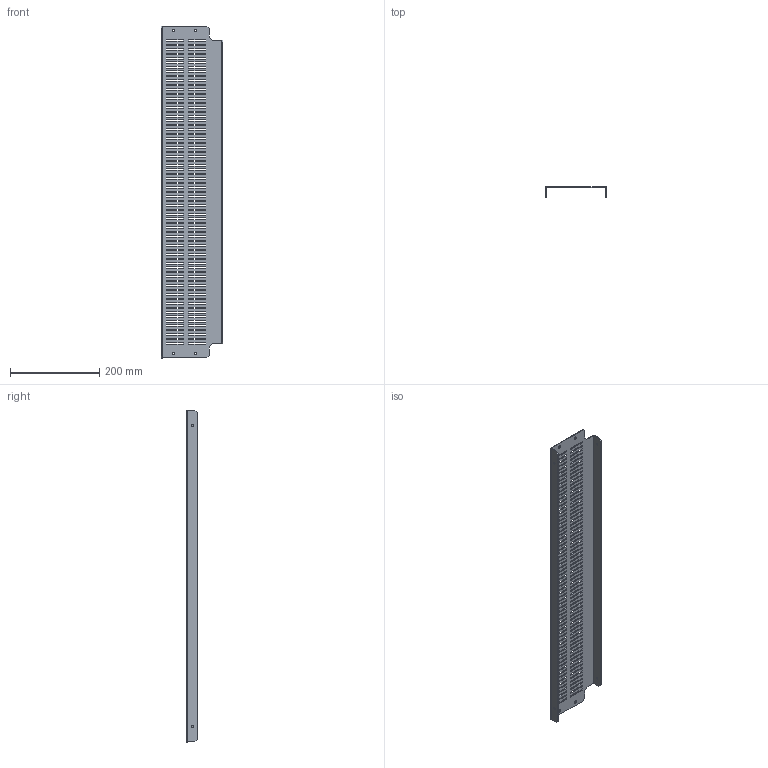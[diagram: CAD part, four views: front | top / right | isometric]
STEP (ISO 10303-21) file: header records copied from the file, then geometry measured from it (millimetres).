
FILE_DESCRIPTION(('CAx-IF Rec.Pracs.---Model Styling and Organization---1.2---2011-12-15','CAx-IF Rec.Pracs.---Geometric and Assembly Validation Properties---4.1---2014-06-16','CAx-IF Rec.Pracs.---PMI Polyline Presentation---2.0---2013-05-24'),'2;1');
FILE_NAME('R5SBA80.stp','2021-05-06T02:24:11+03:00',(''),(''),'STEP Interface 4.4 by CT CoreTechnologie','3D_Evolution4.4 by CT CoreTechnologie','');
FILE_SCHEMA(('AUTOMOTIVE_DESIGN { 1 0 10303 214 1 1 1 1 }'));
Length unit declared in the file: millimetre
Products named in the file (2): R5SBA80; RB.0541.00.00.1_-02
Assembly tree (1 placements, depth 2):
  R5SBA80
    RB.0541.00.00.1_-02
Bounding box: 137 x 23 x 745 mm (x, y, z)
Surface area: 242991.3 mm2 (no closed solid volume)
Topology: 0 solids, 1 shells, 600 faces, 1782 edges, 1184 vertices
Faces by surface type: plane 580, cylinder 20
Entity records: 20347 total; most frequent: CARTESIAN_POINT 3568, ORIENTED_EDGE 3564, DIRECTION 3026, EDGE_CURVE 1782, VECTOR 1742, LINE 1742, VERTEX_POINT 1184, EDGE_LOOP 892
